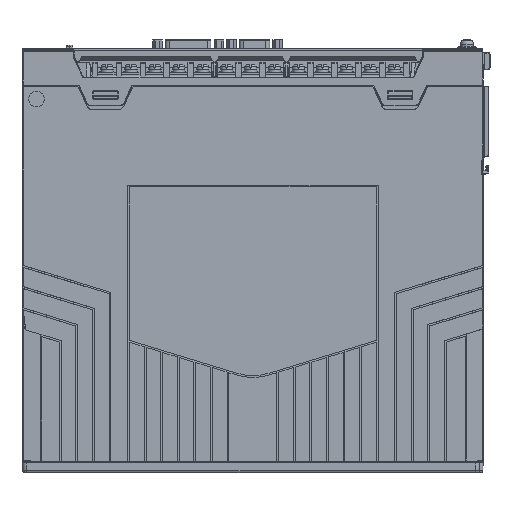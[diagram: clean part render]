
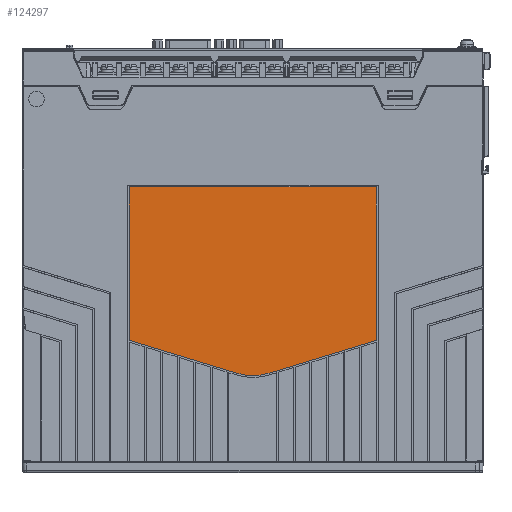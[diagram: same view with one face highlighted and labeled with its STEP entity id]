
A CAD part, left-side view. The second image highlights one B-rep face of the part: STEP entity #124297.
In plain terms, the highlighted planar face has unit normal (-1, 0, 0).
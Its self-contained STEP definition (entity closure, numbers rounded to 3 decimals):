
#15031=CARTESIAN_POINT('',(-47.4,0.,-127.343));
#15032=DIRECTION('',(1.,0.,0.));
#15033=DIRECTION('',(0.,-0.292,-0.956));
#15034=AXIS2_PLACEMENT_3D('',#15031,#15032,#15033);
#15036=DIRECTION('',(0.,0.956,0.292));
#15037=VECTOR('',#15036,60.889);
#15038=CARTESIAN_POINT('',(-47.4,8.771,-156.032));
#15039=LINE('',#15038,#15037);
#15040=DIRECTION('',(0.,0.956,-0.292));
#15041=VECTOR('',#15040,60.889);
#15042=CARTESIAN_POINT('',(-47.4,-67.,-138.23));
#15043=LINE('',#15042,#15041);
#15048=DIRECTION('',(0.,0.,-1.));
#15049=VECTOR('',#15048,83.26);
#15050=CARTESIAN_POINT('',(-47.4,67.,-54.97));
#15051=LINE('',#15050,#15049);
#15056=DIRECTION('',(0.,1.,0.));
#15057=VECTOR('',#15056,134.);
#15058=CARTESIAN_POINT('',(-47.4,-67.,-54.97));
#15059=LINE('',#15058,#15057);
#15064=DIRECTION('',(0.,0.,1.));
#15065=VECTOR('',#15064,83.26);
#15066=CARTESIAN_POINT('',(-47.4,-67.,-138.23));
#15067=LINE('',#15066,#15065);
#93375=CARTESIAN_POINT('',(-47.4,8.771,-156.032));
#93376=VERTEX_POINT('',#93375);
#93377=CARTESIAN_POINT('',(-47.4,67.,-138.23));
#93378=VERTEX_POINT('',#93377);
#93379=CARTESIAN_POINT('',(-47.4,-8.771,-156.032));
#93380=VERTEX_POINT('',#93379);
#93381=CARTESIAN_POINT('',(-47.4,67.,-54.97));
#93382=VERTEX_POINT('',#93381);
#93383=CARTESIAN_POINT('',(-47.4,-67.,-54.97));
#93384=VERTEX_POINT('',#93383);
#93385=CARTESIAN_POINT('',(-47.4,-67.,-138.23));
#93386=VERTEX_POINT('',#93385);
#124280=CARTESIAN_POINT('',(-47.4,0.,-204.5));
#124281=DIRECTION('',(-1.,0.,0.));
#124282=DIRECTION('',(0.,-1.,0.));
#124283=AXIS2_PLACEMENT_3D('',#124280,#124281,#124282);
#124284=PLANE('',#124283);
#124285=ORIENTED_EDGE('',*,*,#124272,.T.);
#124286=ORIENTED_EDGE('',*,*,#124261,.T.);
#124288=ORIENTED_EDGE('',*,*,#124287,.F.);
#124290=ORIENTED_EDGE('',*,*,#124289,.F.);
#124292=ORIENTED_EDGE('',*,*,#124291,.F.);
#124294=ORIENTED_EDGE('',*,*,#124293,.T.);
#124295=EDGE_LOOP('',(#124285,#124286,#124288,#124290,#124292,#124294));
#124296=FACE_OUTER_BOUND('',#124295,.F.);
#15035=CIRCLE('',#15034,30.);
#124261=EDGE_CURVE('',#93376,#93378,#15039,.T.);
#124272=EDGE_CURVE('',#93380,#93376,#15035,.T.);
#124287=EDGE_CURVE('',#93382,#93378,#15051,.T.);
#124289=EDGE_CURVE('',#93384,#93382,#15059,.T.);
#124291=EDGE_CURVE('',#93386,#93384,#15067,.T.);
#124293=EDGE_CURVE('',#93386,#93380,#15043,.T.);
#124297=ADVANCED_FACE('',(#124296),#124284,.T.);
